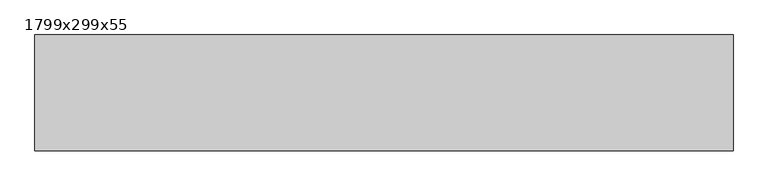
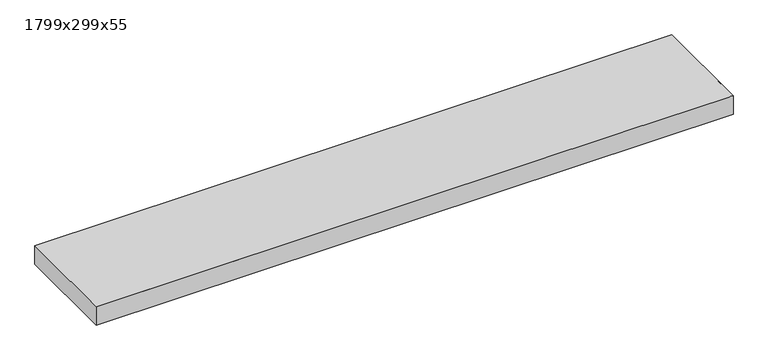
"""IFC4 building model written with IfcOpenShell, lengths in millimetres: proxy geometry, Texaa Panneaux Stereo fixés contre support par système magnétique séparés ou groupés au mur : 1799x299x55."""

from ifc_helpers import new_model, si_unit, frame, origin, place, context, project, spatial, polyline, outline, extrude, faceted_brep, source, transform, mapped, element, save


def proxy_1799x299x55_1cfde904(model_context):
    return source(origin(), model_context, "Body", "SolidModel", [
        extrude(outline(polyline([(-898.5, 148.5), (898.5, 148.5), (898.5, -148.5), (-898.5, -148.5), (-898.5, 148.5)])), frame((0.0, 0.0, 11.0), z_axis=(0.0, 0.0, 1.0), x_axis=(1.0, 0.0, 0.0)), (0.0, 0.0, 1.0), 53.0),
        faceted_brep([(899.5, -149.5, 65.0), (899.5, 149.5, 65.0), (-899.5, 149.5, 65.0), (-899.5, 148.4862823, 65.0), (-899.5, 147.4725646, 65.0), (-899.5, 98.8141147, 65.0), (-899.5, -149.5, 65.0), (594.5370984, -149.5, 65.0), (887.3014839, -149.5, 65.0), (893.400742, -149.5, 65.0), (-899.5, 149.5, 10.0), (899.5, 149.5, 10.0), (899.5, -149.5, 10.0), (-899.5, -149.5, 10.0), (-849.5, -99.5, 10.0), (849.5, -99.5, 10.0), (849.5, 99.5, 10.0), (-849.5, 99.5, 10.0), (-899.5, 149.5, 64.0), (899.5, -149.5, 64.0), (-849.5, -99.5, 11.0), (849.5, -99.5, 11.0), (849.5, 99.5, 11.0), (-849.5, 99.5, 11.0), (898.5, 148.5, 64.0), (898.5, -148.5, 64.0), (893.4832776, -148.5, 64.0), (887.3840196, -148.5, 64.0), (881.2847615, -148.5, 64.0), (588.520376, -148.5, 64.0), (-898.5, -148.5, 64.0), (-898.5, 98.6479113, 64.0), (-898.5, 147.3063611, 64.0), (-898.5, 148.3200788, 64.0), (-898.5, 148.5, 64.0), (-893.4832776, 148.5, 64.0), (-898.5, 148.5, 11.0), (-898.5, -148.5, 11.0), (898.5, -148.5, 11.0), (898.5, 148.5, 11.0)], [[[0, 1, 2, 3, 4, 5, 6, 7, 8, 9]], [[10, 11, 12, 13], [14, 15, 16, 17]], [[10, 13, 6, 5, 4, 3, 2, 18]], [[13, 12, 19, 0, 9, 8, 7, 6]], [[1, 0, 19, 12, 11]], [[2, 1, 11, 10, 18]], [[14, 20, 21, 15]], [[15, 21, 22, 16]], [[16, 22, 23, 17]], [[20, 14, 17, 23]], [[24, 25, 26, 27, 28, 29, 30, 31, 32, 33, 34, 35]], [[36, 37, 38, 39], [21, 20, 23, 22]], [[37, 36, 34, 33, 32, 31, 30]], [[38, 37, 30, 29, 28, 27, 26, 25]], [[25, 24, 39, 38]], [[36, 39, 24, 35, 34]]]),
    ])


if __name__ == "__main__":
    model = new_model("IFC4")
    model_context = context("Model", 3, world=origin())
    ifc_project = project(units=[si_unit("LENGTHUNIT", "METRE", prefix="MILLI")], contexts=[model_context])
    site = spatial("IfcSite", under=ifc_project)
    building = spatial("IfcBuilding", under=site)
    placement = place(None, origin())
    proxy_1799x299x55_shape = proxy_1799x299x55_1cfde904(model_context)
    element("IfcBuildingElementProxy", 1, Name="Texaa Panneaux Stereo fixés contre support par système magnétique séparés ou groupés au mur : 1799x299x55", ObjectType="Texaa Panneaux Stereo fixés contre support par système magnétique séparés ou groupés au mur : 1799x299x55", at=placement, inside=building, context=model_context, shape_type="MappedRepresentation", body=[
        mapped(proxy_1799x299x55_shape, transform((0.0, 0.0, 0.0), x_axis=(1.0, 0.0, 0.0), y_axis=(0.0, 1.0, 0.0), z_axis=(0.0, 0.0, 1.0))),
    ])
    save(model, "model.ifc")
